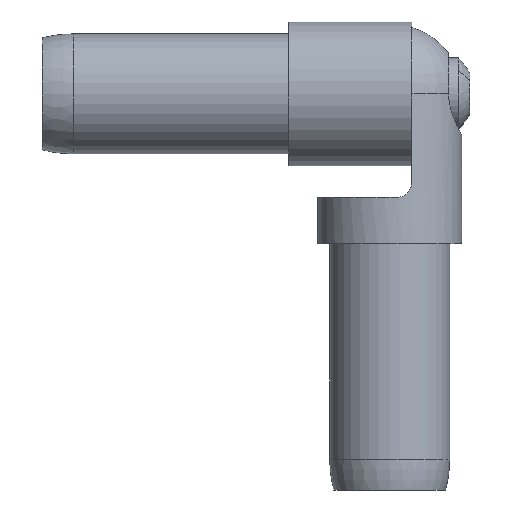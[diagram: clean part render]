
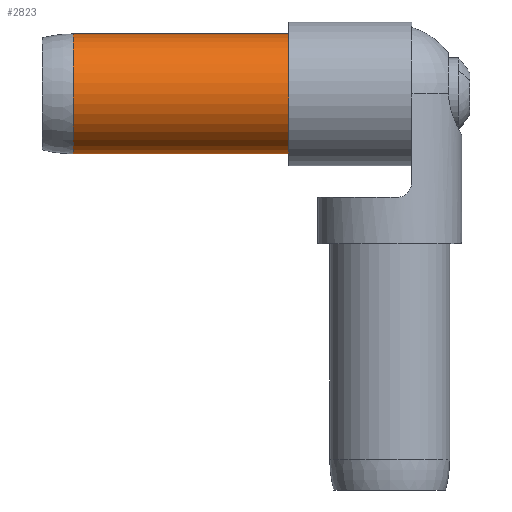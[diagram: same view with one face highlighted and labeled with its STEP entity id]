
A CAD part, front view. The second image highlights one B-rep face of the part: STEP entity #2823.
In plain terms, the highlighted cylindrical face has radius 9.271 mm (diameter 18.542 mm), a partial arc.
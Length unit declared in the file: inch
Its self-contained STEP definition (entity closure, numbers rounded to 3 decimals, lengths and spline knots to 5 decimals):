
#1560 = ORIENTED_EDGE ( 'NONE', *, *, #12002, .F. ) ;
#1686 = ORIENTED_EDGE ( 'NONE', *, *, #4138, .F. ) ;
#1872 = CYLINDRICAL_SURFACE ( 'NONE', #8396, 0.365 ) ;
#1910 = DIRECTION ( 'NONE',  ( 0., 0., 1. ) ) ;
#2125 = VECTOR ( 'NONE', #6428, 39.37008 ) ;
#2275 = DIRECTION ( 'NONE',  ( -1., 0., 0. ) ) ;
#2339 = VERTEX_POINT ( 'NONE', #10737 ) ;
#2394 = CARTESIAN_POINT ( 'NONE',  ( -2.25, 0., 0. ) ) ;
#2823 = ADVANCED_FACE ( 'NONE', ( #3245 ), #1872, .T. ) ;
#3115 = CARTESIAN_POINT ( 'NONE',  ( -2.25, 0., 0.365 ) ) ;
#3245 = FACE_OUTER_BOUND ( 'NONE', #8914, .T. ) ;
#3405 = CARTESIAN_POINT ( 'NONE',  ( -2.0625, 0., 0.365 ) ) ;
#3728 = VECTOR ( 'NONE', #6431, 39.37008 ) ;
#4138 = EDGE_CURVE ( 'NONE', #13853, #11571, #4718, .T. ) ;
#4526 = DIRECTION ( 'NONE',  ( -1., 0., 0. ) ) ;
#4718 = CIRCLE ( 'NONE', #9701, 0.365 ) ;
#4742 = CARTESIAN_POINT ( 'NONE',  ( -2.0625, 0., -0.365 ) ) ;
#4953 = EDGE_CURVE ( 'NONE', #14102, #2339, #13830, .T. ) ;
#5110 = AXIS2_PLACEMENT_3D ( 'NONE', #11086, #4526, #12178 ) ;
#5127 = CARTESIAN_POINT ( 'NONE',  ( -2.0625, 0., 0. ) ) ;
#6217 = DIRECTION ( 'NONE',  ( 0., 0., 1. ) ) ;
#6428 = DIRECTION ( 'NONE',  ( -1., 0., 0. ) ) ;
#6431 = DIRECTION ( 'NONE',  ( -1., 0., 0. ) ) ;
#6621 = LINE ( 'NONE', #3115, #3728 ) ;
#7859 = EDGE_CURVE ( 'NONE', #2339, #11571, #6621, .T. ) ;
#7920 = LINE ( 'NONE', #8553, #2125 ) ;
#8396 = AXIS2_PLACEMENT_3D ( 'NONE', #2394, #2275, #1910 ) ;
#8553 = CARTESIAN_POINT ( 'NONE',  ( -2.25, 0., -0.365 ) ) ;
#8914 = EDGE_LOOP ( 'NONE', ( #1560, #13543, #13800, #1686 ) ) ;
#9701 = AXIS2_PLACEMENT_3D ( 'NONE', #5127, #12804, #6217 ) ;
#10737 = CARTESIAN_POINT ( 'NONE',  ( -0.75, 0., 0.365 ) ) ;
#11086 = CARTESIAN_POINT ( 'NONE',  ( -0.75, 0., 0. ) ) ;
#11571 = VERTEX_POINT ( 'NONE', #3405 ) ;
#12002 = EDGE_CURVE ( 'NONE', #14102, #13853, #7920, .T. ) ;
#12178 = DIRECTION ( 'NONE',  ( 0., 0., 1. ) ) ;
#12804 = DIRECTION ( 'NONE',  ( -1., 0., 0. ) ) ;
#13184 = CARTESIAN_POINT ( 'NONE',  ( -0.75, 0., -0.365 ) ) ;
#13543 = ORIENTED_EDGE ( 'NONE', *, *, #4953, .T. ) ;
#13800 = ORIENTED_EDGE ( 'NONE', *, *, #7859, .T. ) ;
#13830 = CIRCLE ( 'NONE', #5110, 0.365 ) ;
#13853 = VERTEX_POINT ( 'NONE', #4742 ) ;
#14102 = VERTEX_POINT ( 'NONE', #13184 ) ;
